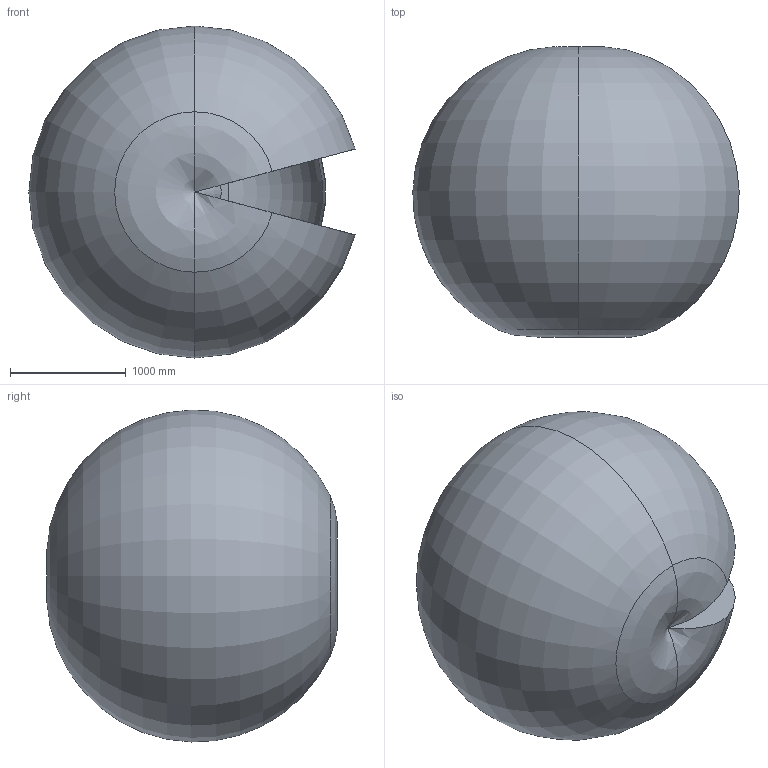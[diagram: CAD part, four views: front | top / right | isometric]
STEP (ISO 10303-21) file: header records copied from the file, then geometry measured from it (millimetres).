
FILE_DESCRIPTION (( 'STEP AP214' ), '1' );
FILE_NAME ('Racer 7-1.4 (3D-STEP).STEP', '2013-12-10T11:03:41', ( '' ), ( '' ), 'SwSTEP 2.0', 'SolidWorks 2011', '' );
FILE_SCHEMA (( 'AUTOMOTIVE_DESIGN' ));
Length unit declared in the file: millimetre
Products named in the file (14): Operation Area Racer 7-1.4; Racer 7-1.4_p08; Racer 7-1.4_p07; Racer 7-1.4_p06; Racer 7-1.4_p05; Racer 7-1.4_CR82350005; Racer 7-1.4_CR82350031; Racer 7-1.4_p04; Racer 7-1.4_CR82350055; Racer 7-1.4_CR82350054; Racer 7-1.4_p03; Racer 7-1.4_p02; Racer 7-1.4_p01; Racer 7-1.4 (3D-STEP)
Assembly tree (13 placements, depth 2):
  Racer 7-1.4 (3D-STEP)
    Operation Area Racer 7-1.4
    Racer 7-1.4_p08
    Racer 7-1.4_CR82350031
    Racer 7-1.4_p02
    Racer 7-1.4_p07
    Racer 7-1.4_p04
    Racer 7-1.4_CR82350055
    Racer 7-1.4_p06
    Racer 7-1.4_p05
    Racer 7-1.4_CR82350005
    Racer 7-1.4_CR82350054
    Racer 7-1.4_p01
    Racer 7-1.4_p03
Bounding box: 2822.59 x 2513.01 x 2871.51 mm (x, y, z)
Volume: 10290608034.9 mm3; surface area: 34666299.7 mm2
Topology: 13 solids, 20 shells, 2655 faces, 7133 edges, 4592 vertices
Faces by surface type: cylinder 1029, plane 1019, bspline 366, cone 156, torus 79, sphere 6
Entity records: 208890 total; most frequent: CARTESIAN_POINT 134095, ORIENTED_EDGE 14014, DIRECTION 12172, EDGE_CURVE 7007, VERTEX_POINT 4592, AXIS2_PLACEMENT_3D 4457, LINE 3258, VECTOR 3258
